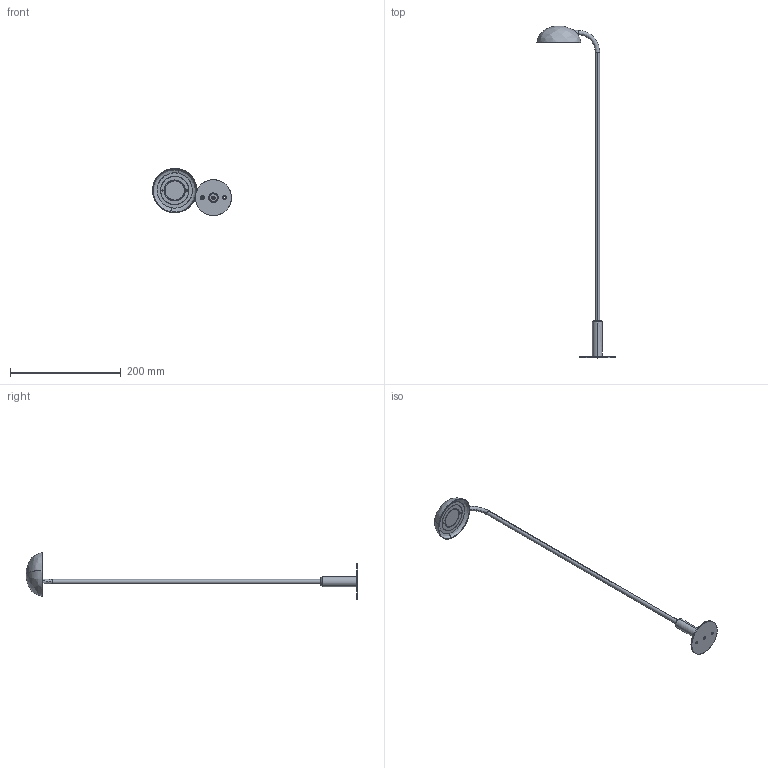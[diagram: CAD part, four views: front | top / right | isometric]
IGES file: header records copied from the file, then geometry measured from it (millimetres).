
Start section: SolidWorks IGES file using analytic representation for surfaces
Global section: file name: L:\Tecnico_PMT\R&D\PROGETTI ROADMAP 2024\OUTDOOR -METIS\Documentazione\3D per sito\MIRTILLA\3D per sito_Mirtilla 900mm.IGS; native system: SolidWorks 2016; preprocessor: SolidWorks 2016; author: MartinaCorneroILTI; date: 260204.165223; units: millimetre
Bounding box: 142.4 x 599.87 x 85.46 mm (x, y, z)
Surface area: 57997.1 mm2 (no closed solid volume)
Topology: 0 solids, 0 shells, 119 faces, 2806 edges, 2800 vertices
Faces by surface type: revolution 74, bspline 45
